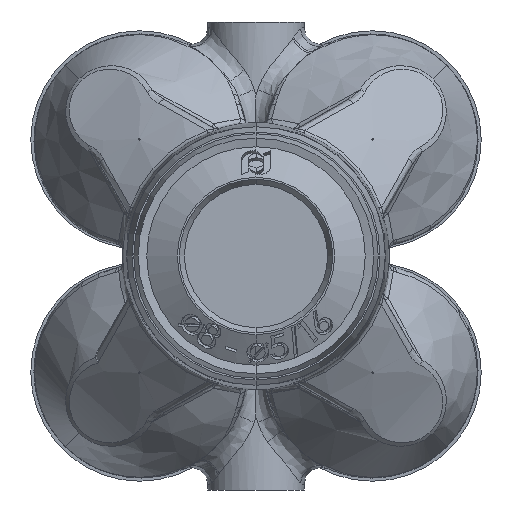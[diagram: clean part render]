
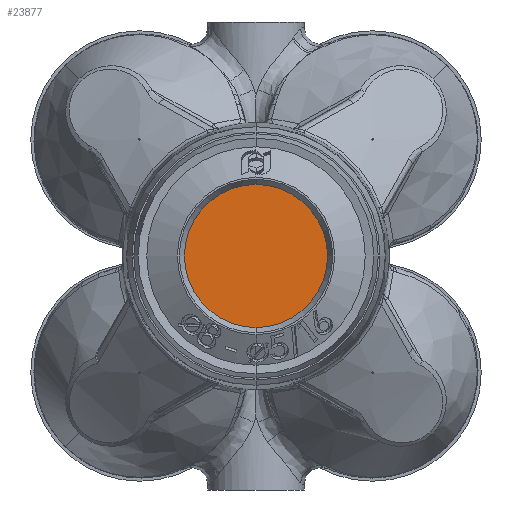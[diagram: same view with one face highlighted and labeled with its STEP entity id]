
A CAD part, front view. The second image highlights one B-rep face of the part: STEP entity #23877.
In plain terms, the highlighted planar face has unit normal (0, -1, 0).
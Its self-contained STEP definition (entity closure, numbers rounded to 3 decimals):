
#3241 = VERTEX_POINT ( 'NONE', #45374 ) ;
#3249 = VERTEX_POINT ( 'NONE', #45448 ) ;
#10285 = AXIS2_PLACEMENT_3D ( 'NONE', #46118, #46120, #46122 ) ;
#10319 = AXIS2_PLACEMENT_3D ( 'NONE', #46284, #46286, #46288 ) ;
#11408 = CIRCLE ( 'NONE', #10285, 4.1 ) ;
#11470 = CIRCLE ( 'NONE', #10319, 4.1 ) ;
#21314 = EDGE_CURVE ( 'NONE', #3249, #3241, #11408, .T. ) ;
#21347 = EDGE_CURVE ( 'NONE', #3241, #3249, #11470, .T. ) ;
#23877 = ADVANCED_FACE ( 'NONE', ( #29333 ), #67000, .F. ) ;
#29333 = FACE_OUTER_BOUND ( 'NONE', #38358, .T. ) ;
#38358 = EDGE_LOOP ( 'NONE', ( #61476, #61477 ) ) ;
#45374 = CARTESIAN_POINT ( 'NONE',  ( 0., 0., -4.1 ) ) ;
#45448 = CARTESIAN_POINT ( 'NONE',  ( 0., 0., 4.1 ) ) ;
#46118 = CARTESIAN_POINT ( 'NONE',  ( 0., 0., 0. ) ) ;
#46120 = DIRECTION ( 'NONE',  ( 0., 1., 0. ) ) ;
#46122 = DIRECTION ( 'NONE',  ( -1., 0., 0. ) ) ;
#46284 = CARTESIAN_POINT ( 'NONE',  ( 0., 0., 0. ) ) ;
#46286 = DIRECTION ( 'NONE',  ( 0., 1., 0. ) ) ;
#46288 = DIRECTION ( 'NONE',  ( -1., 0., 0. ) ) ;
#57210 = AXIS2_PLACEMENT_3D ( 'NONE', #67008, #67009, #67010 ) ;
#61476 = ORIENTED_EDGE ( 'NONE', *, *, #21314, .F. ) ;
#61477 = ORIENTED_EDGE ( 'NONE', *, *, #21347, .F. ) ;
#67000 = PLANE ( 'NONE',  #57210 ) ;
#67008 = CARTESIAN_POINT ( 'NONE',  ( 0., 0., 0. ) ) ;
#67009 = DIRECTION ( 'NONE',  ( 0., 1., 0. ) ) ;
#67010 = DIRECTION ( 'NONE',  ( -1., 0., 0. ) ) ;
